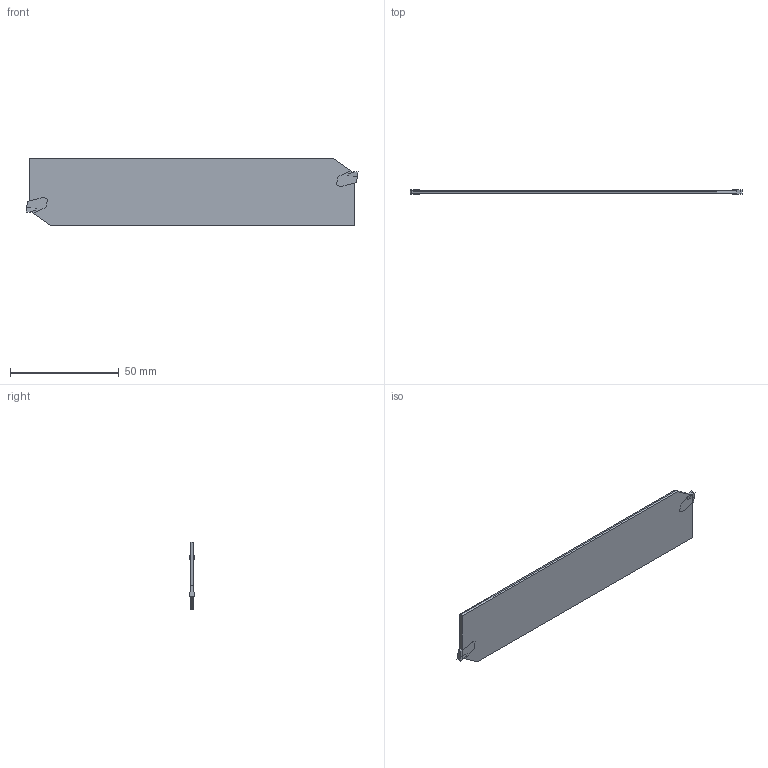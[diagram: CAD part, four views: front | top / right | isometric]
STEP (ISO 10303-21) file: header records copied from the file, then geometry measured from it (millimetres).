
FILE_DESCRIPTION(/* description */ (''),/* implementation_level */ '2;1');
FILE_NAME(/* name */ 'SPBA125-S-2-HAAS.stp',/* time_stamp */ '2020-10-14T12:51:04+09:00',/* author */ (''),/* organization */ (''),/* preprocessor_version */ 'ST-DEVELOPER v16',/* originating_system */ 'SIEMENS PLM Software NX 10.0',/* authorisation */ '');
FILE_SCHEMA (('AP203_CONFIGURATION_CONTROLLED_3D_DESIGN_OF_MECHANICAL_PARTS_AND_ASSEMBLIES_MIM_LF { 1 0 10303 403 2 1 2}'));
Length unit declared in the file: millimetre
Products named in the file (1): user1B3874A15zq2
Bounding box: 153 x 2.14 x 31.32 mm (x, y, z)
Volume: 7615.2 mm3; surface area: 10159.4 mm2
Topology: 4 solids, 4 shells, 70 faces, 180 edges, 118 vertices
Faces by surface type: plane 64, cylinder 6
Entity records: 2174 total; most frequent: CARTESIAN_POINT 369, ORIENTED_EDGE 360, DIRECTION 334, EDGE_CURVE 180, LINE 168, VECTOR 168, VERTEX_POINT 118, AXIS2_PLACEMENT_3D 83
